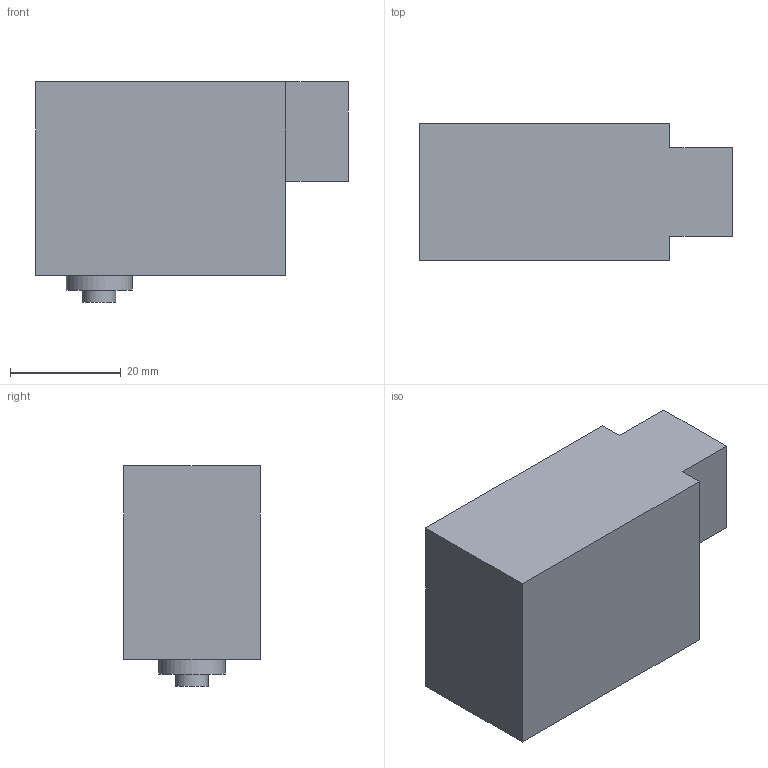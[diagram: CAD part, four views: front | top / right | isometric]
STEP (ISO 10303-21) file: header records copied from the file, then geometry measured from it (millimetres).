
FILE_DESCRIPTION(('Open CASCADE Model'),'2;1');
FILE_NAME('Open CASCADE Shape Model','2026-11-23T18:10:06',('Author'),( 'Open CASCADE'),'Open CASCADE STEP processor 8.0','build123d', 'Unknown');
FILE_SCHEMA(('AUTOMOTIVE_DESIGN { 1 0 10303 214 1 1 1 1 }'));
Length unit declared in the file: millimetre
Products named in the file (1): SOLID
Bounding box: 56.5 x 24.7 x 39.8 mm (x, y, z)
Volume: 42663.9 mm3; surface area: 8083.3 mm2
Topology: 1 solids, 1 shells, 18 faces, 36 edges, 24 vertices
Faces by surface type: plane 14, cylinder 4
Full cylindrical faces by diameter (mm): 1.6 x2, 5.9 x1, 12 x1
Entity records: 940 total; most frequent: CARTESIAN_POINT 157, DIRECTION 148, LINE 86, VECTOR 86, ORIENTED_EDGE 72, PCURVE 72, DEFINITIONAL_REPRESENTATION 72, EDGE_CURVE 36
